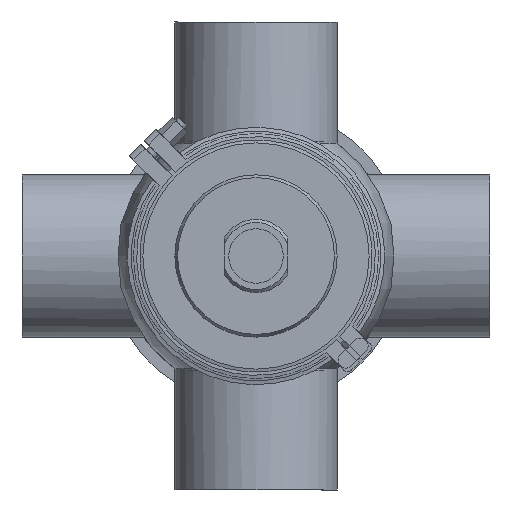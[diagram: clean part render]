
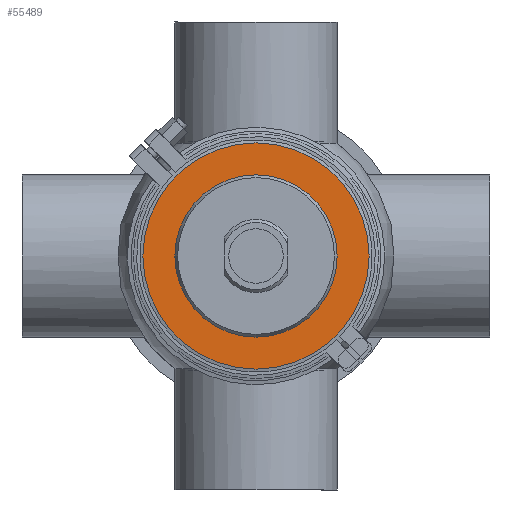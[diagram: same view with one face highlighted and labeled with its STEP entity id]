
A CAD part, front view. The second image highlights one B-rep face of the part: STEP entity #55489.
In plain terms, the highlighted planar face has unit normal (0, -1, 0).
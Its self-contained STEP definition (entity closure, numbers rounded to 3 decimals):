
#220 = CIRCLE ( 'NONE', #54803, 72.5 ) ;
#4929 = CARTESIAN_POINT ( 'NONE',  ( 0., -13., 72.5 ) ) ;
#8246 = AXIS2_PLACEMENT_3D ( 'NONE', #16679, #11192, #36344 ) ;
#8257 = DIRECTION ( 'NONE',  ( 0., 1., 0. ) ) ;
#8436 = ORIENTED_EDGE ( 'NONE', *, *, #19295, .F. ) ;
#8690 = EDGE_LOOP ( 'NONE', ( #29576 ) ) ;
#10184 = EDGE_CURVE ( 'NONE', #46938, #46938, #56697, .T. ) ;
#11192 = DIRECTION ( 'NONE',  ( 0., 1., 0. ) ) ;
#16679 = CARTESIAN_POINT ( 'NONE',  ( 0., -13., 0. ) ) ;
#19295 = EDGE_CURVE ( 'NONE', #34569, #34569, #220, .T. ) ;
#22152 = CARTESIAN_POINT ( 'NONE',  ( 0., -13., 0. ) ) ;
#22721 = CARTESIAN_POINT ( 'NONE',  ( 0., -13., 52. ) ) ;
#26245 = FACE_OUTER_BOUND ( 'NONE', #57408, .T. ) ;
#27498 = CARTESIAN_POINT ( 'NONE',  ( -72.5, -13., 0. ) ) ;
#27969 = DIRECTION ( 'NONE',  ( 0., 0., 1. ) ) ;
#29576 = ORIENTED_EDGE ( 'NONE', *, *, #10184, .T. ) ;
#33579 = DIRECTION ( 'NONE',  ( 0., -1., 0. ) ) ;
#34569 = VERTEX_POINT ( 'NONE', #4929 ) ;
#36344 = DIRECTION ( 'NONE',  ( 0., 0., 1. ) ) ;
#38430 = DIRECTION ( 'NONE',  ( 0., 0., -1. ) ) ;
#41352 = FACE_BOUND ( 'NONE', #8690, .T. ) ;
#46938 = VERTEX_POINT ( 'NONE', #22721 ) ;
#54803 = AXIS2_PLACEMENT_3D ( 'NONE', #22152, #8257, #27969 ) ;
#55489 = ADVANCED_FACE ( 'NONE', ( #41352, #26245 ), #60740, .T. ) ;
#56697 = CIRCLE ( 'NONE', #8246, 52. ) ;
#57408 = EDGE_LOOP ( 'NONE', ( #8436 ) ) ;
#60740 = PLANE ( 'NONE',  #63630 ) ;
#63630 = AXIS2_PLACEMENT_3D ( 'NONE', #27498, #33579, #38430 ) ;
